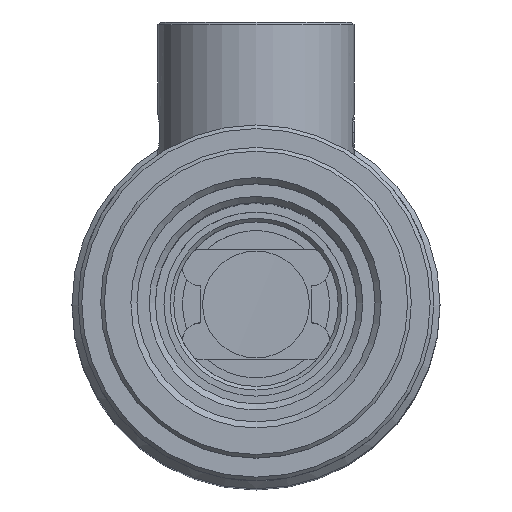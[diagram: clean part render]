
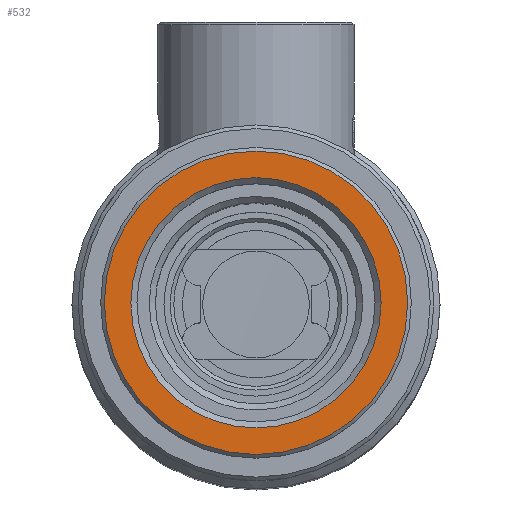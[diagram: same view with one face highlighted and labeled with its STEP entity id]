
A CAD part, top view. The second image highlights one B-rep face of the part: STEP entity #532.
In plain terms, the highlighted planar face has unit normal (0, 0, 1).
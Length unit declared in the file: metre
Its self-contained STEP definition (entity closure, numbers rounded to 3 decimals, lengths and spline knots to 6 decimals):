
#532=ADVANCED_FACE('1:29671',(#1351,#1352),#1353,.F.);
#1351=FACE_BOUND('',#2620,.T.);
#1352=FACE_OUTER_BOUND('',#2621,.T.);
#1353=PLANE('',#2622);
#2620=EDGE_LOOP('',(#4045));
#2621=EDGE_LOOP('',(#4046));
#2622=AXIS2_PLACEMENT_3D('',#4047,#4048,#4049);
#4045=ORIENTED_EDGE('',*,*,#6105,.T.);
#4046=ORIENTED_EDGE('',*,*,#6103,.T.);
#4047=CARTESIAN_POINT('',(0.004447,0.01775,0.0915));
#4048=DIRECTION('',(0.,0.0,-1.0));
#4049=DIRECTION('',(-1.0,0.0,0.));
#6103=EDGE_CURVE('1:31525',#7124,#7124,#7125,.T.);
#6105=EDGE_CURVE('1:31516',#7127,#7127,#7128,.T.);
#7124=VERTEX_POINT('',#8935);
#7125=CIRCLE('',#8936,0.01236);
#7127=VERTEX_POINT('',#8938);
#7128=CIRCLE('',#8939,0.0102);
#8935=CARTESIAN_POINT('',(-0.007913,0.00509,0.0915));
#8936=AXIS2_PLACEMENT_3D('',#10682,#10683,#10684);
#8938=CARTESIAN_POINT('',(-0.005753,0.00509,0.0915));
#8939=AXIS2_PLACEMENT_3D('',#10685,#10686,#10687);
#10682=CARTESIAN_POINT('',(0.004447,0.00509,0.0915));
#10683=DIRECTION('',(0.,0.0,1.0));
#10684=DIRECTION('',(-1.0,0.0,0.));
#10685=CARTESIAN_POINT('',(0.004447,0.00509,0.0915));
#10686=DIRECTION('',(0.,0.0,-1.0));
#10687=DIRECTION('',(-1.0,0.0,0.));
